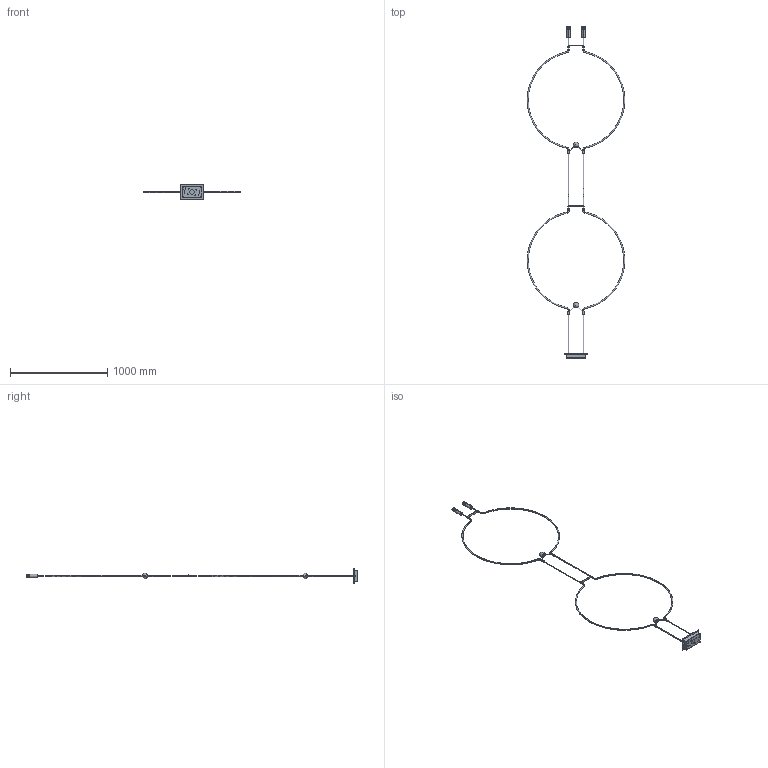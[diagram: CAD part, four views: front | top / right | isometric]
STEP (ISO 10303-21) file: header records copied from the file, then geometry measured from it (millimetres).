
FILE_DESCRIPTION (( 'STEP AP203' ), '1' );
FILE_NAME ('SPLIADG2-PER 3D.STEP', '2025-06-26T07:36:09', ( '' ), ( '' ), 'SwSTEP 2.0', 'SolidWorks 2024', '' );
FILE_SCHEMA (( 'CONFIG_CONTROL_DESIGN' ));
Length unit declared in the file: millimetre
Products named in the file (20): 1.0C.AXO01.LS01.06_rev_A; 1.0A.AXO01.LS03.F2; 1.0A.AXO01.LS07.S1_rev_A; 1.0A.AXO01.LS01.S1; 1.0C.AXO01.LS03.01; 1.0C.AXO01.LS01.03_rev_A; 1.0C.AXO01.LS03.50; SPLIADG2-PER 3D; 1.0C.AXO01.LS01.12_rev_A; 1.0C.AXO01.LS07.01_rev_A_Default<A macchina>; Viti Testa Svasata Piana Impronta a Croce_VITE M2 L6 STPIC; 1.0A.AXO01.LS01.F1_rev_A; 1.0C.AXO01.LS07.05; 1.0C.AXO01.LS04.01_rev_A; 1.0C.AXO01.LS04.02_rev_A; 1.0A.AXO01.LS07.F1_rev_A; 1.0C.AXO01.LS07.02
Assembly tree (29 placements, depth 4):
  SPLIADG2-PER 3D
    1.0A.AXO01.LS07.F1_rev_A
      1.0C.AXO01.LS07.01_rev_A_Default<A macchina>
      1.0A.AXO01.LS07.S1_rev_A
        1.0C.AXO01.LS07.02
    1.0A.AXO01.LS03.F2
      1.0C.AXO01.LS03.01
      1.0C.AXO01.LS03.50
      1.0A.AXO01.LS01.S1
        1.0C.AXO01.LS01.12_rev_A
        1.0C.AXO01.LS01.03_rev_A
    1.0A.AXO01.LS03.F2
      1.0C.AXO01.LS03.01
      1.0C.AXO01.LS03.50
      1.0A.AXO01.LS01.S1
        1.0C.AXO01.LS01.12_rev_A
        1.0C.AXO01.LS01.03_rev_A
      1.0A.AXO01.LS01.F1_rev_A
        Viti Testa Svasata Piana Impronta a Croce_VITE M2 L6 STPIC
    1.0C.AXO01.LS04.01_rev_A  x2
    1.0C.AXO01.LS04.02_rev_A  x2
    1.0C.AXO01.LS07.05  x2
    1.0A.AXO01.LS03.F2  x2
      1.0C.AXO01.LS03.01
      1.0C.AXO01.LS03.50
      1.0A.AXO01.LS01.S1
        1.0C.AXO01.LS01.12_rev_A
        1.0C.AXO01.LS01.03_rev_A
      1.0A.AXO01.LS01.F1_rev_A
        1.0C.AXO01.LS01.06_rev_A
Bounding box: 1005 x 3415.12 x 145 mm (x, y, z)
Volume: 973395.9 mm3; surface area: 863005.8 mm2
Topology: 37 solids, 37 shells, 778 faces, 1856 edges, 1155 vertices
Faces by surface type: cylinder 408, plane 202, torus 86, cone 60, bspline 14, sphere 8
Entity records: 20619 total; most frequent: CARTESIAN_POINT 7542, DIRECTION 2344, ORIENTED_EDGE 2146, EDGE_CURVE 1073, AXIS2_PLACEMENT_3D 927, VERTEX_POINT 674, EDGE_LOOP 549, LINE 490
